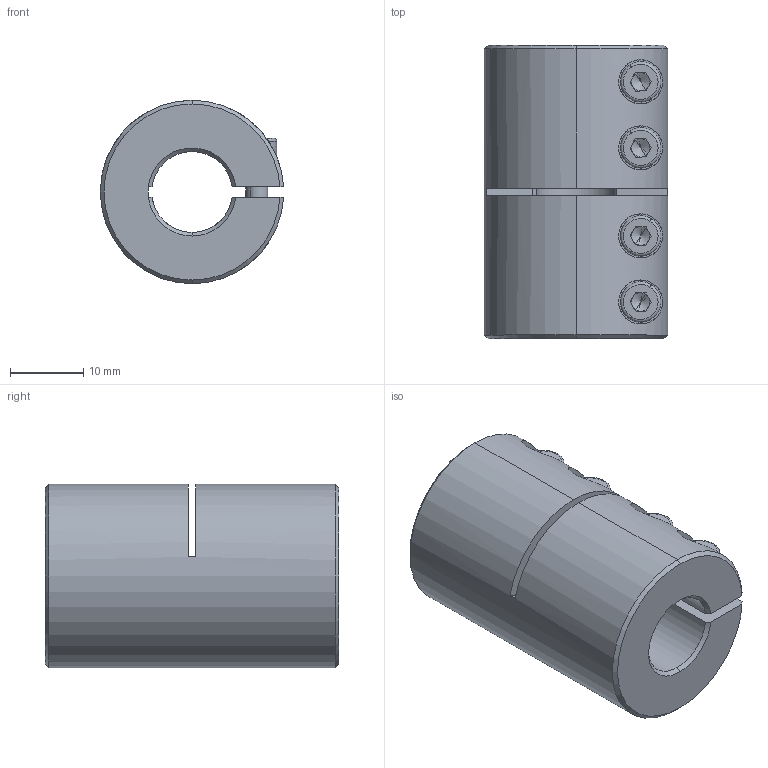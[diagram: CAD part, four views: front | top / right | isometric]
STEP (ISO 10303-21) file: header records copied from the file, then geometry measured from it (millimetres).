
FILE_DESCRIPTION (( 'STEP AP214' ), '1' );
FILE_NAME ('LL-B-D25L40-11-11½¨Ä£.STEP', '2022-07-21T05:21:00', ( '' ), ( '' ), 'SwSTEP 2.0', 'SolidWorks 2022', '' );
FILE_SCHEMA (( 'AUTOMOTIVE_DESIGN' ));
Length unit declared in the file: millimetre
Products named in the file (1): LL-B-D25L40-11-11膘耀
Bounding box: 24.98 x 40 x 25 mm (x, y, z)
Volume: 14847.2 mm3; surface area: 7108 mm2
Topology: 1 solids, 1 shells, 173 faces, 440 edges, 277 vertices
Faces by surface type: plane 83, cylinder 62, cone 20, torus 8
Entity records: 5667 total; most frequent: CARTESIAN_POINT 1407, DIRECTION 915, ORIENTED_EDGE 864, EDGE_CURVE 432, AXIS2_PLACEMENT_3D 353, VERTEX_POINT 277, LINE 209, VECTOR 209
